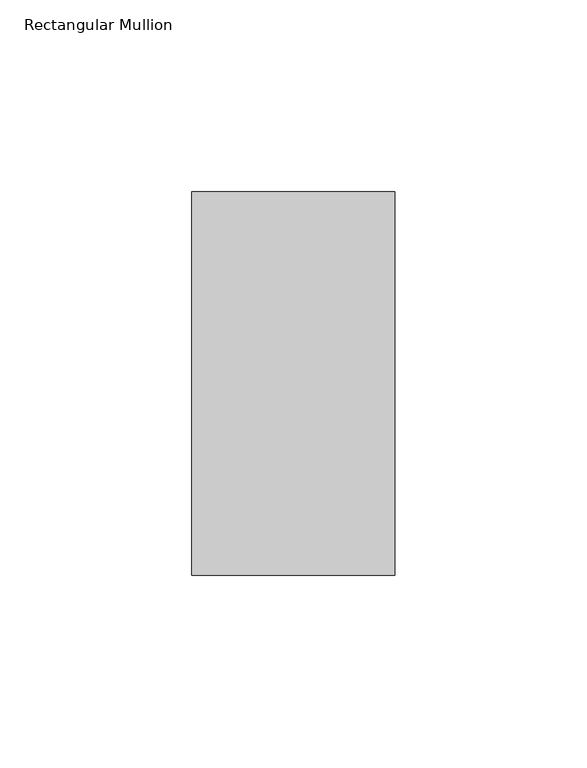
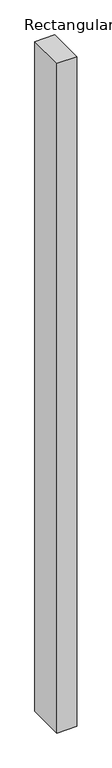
"""IFC4 building model written with IfcOpenShell, lengths in millimetres: member geometry, Rectangular Mullion : IMP219 100mm x 53mm Horizontal."""

from ifc_helpers import new_model, si_unit, frame, origin, place, context, project, spatial, polyline, outline, extrude, source, transform, mapped, element, save


def rectangular_mullion_567d2da6(model_context):
    return source(origin(), model_context, "Body", "SweptSolid", [
        extrude(outline(polyline([(-26.5, -50.0), (-26.5, 50.0), (26.5, 50.0), (26.5, -50.0), (-26.5, -50.0)])), frame((0.0, 0.0, -1872.0), z_axis=(0.0, 0.0, 1.0), x_axis=(1.0, 0.0, 0.0)), (0.0, 0.0, 1.0), 1872.0),
    ])


if __name__ == "__main__":
    model = new_model("IFC4")
    model_context = context("Model", 3, world=origin())
    ifc_project = project(units=[si_unit("LENGTHUNIT", "METRE", prefix="MILLI")], contexts=[model_context])
    site = spatial("IfcSite", under=ifc_project)
    building = spatial("IfcBuilding", under=site)
    placement = place(None, origin())
    rectangular_mullion_shape = rectangular_mullion_567d2da6(model_context)
    element("IfcMember", 1, ObjectType="Rectangular Mullion : IMP219 100mm x 53mm Horizontal", at=placement, inside=building, context=model_context, shape_type="MappedRepresentation", body=[
        mapped(rectangular_mullion_shape, transform((0.0, 0.0, 0.0), x_axis=(1.0, 0.0, 0.0), y_axis=(0.0, 1.0, 0.0), z_axis=(0.0, 0.0, 1.0))),
    ])
    save(model, "model.ifc")
